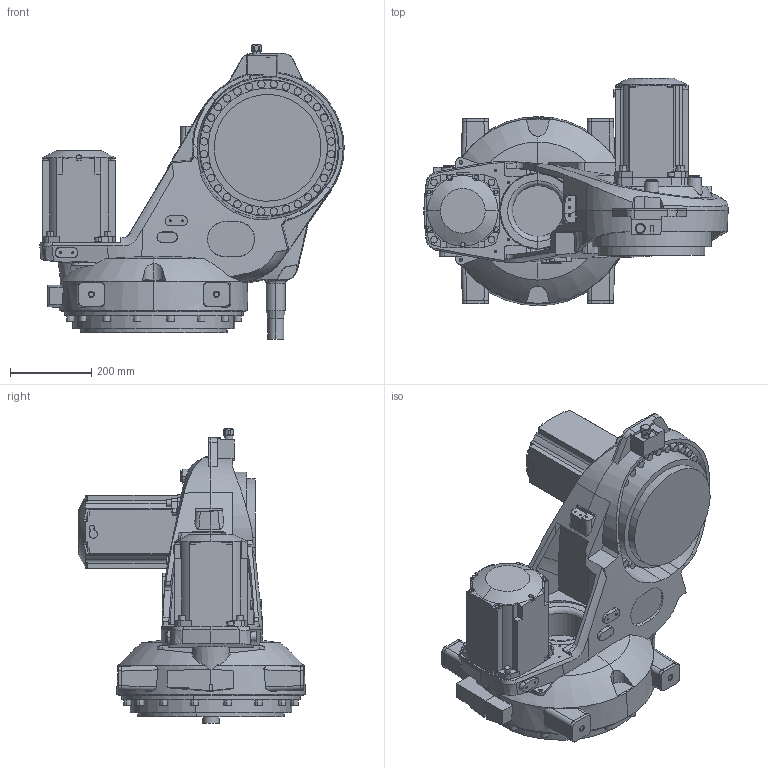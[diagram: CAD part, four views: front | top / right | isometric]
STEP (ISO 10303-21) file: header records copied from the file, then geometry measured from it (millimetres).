
FILE_DESCRIPTION (( 'STEP AP214' ), '1' );
FILE_NAME ('IRB5710-LID_70kg-270_OmniCore_rev00_LINK01_CAD.step', '2025-07-07T14:19:58', ( '' ), ( '' ), 'SwSTEP 2.0', 'SolidWorks 2024', '' );
FILE_SCHEMA (( 'AUTOMOTIVE_DESIGN' ));
Length unit declared in the file: millimetre
Products named in the file (1): IRB5710-LID_70kg-270_OmniCore_rev00_LINK01_CAD
Bounding box: 749.5 x 559.45 x 724.4 mm (x, y, z)
Volume: 67023913.9 mm3; surface area: 2045047.4 mm2
Topology: 5 solids, 25 shells, 1528 faces, 3771 edges, 2393 vertices
Faces by surface type: plane 613, cylinder 470, cone 236, bspline 120, torus 78, sphere 11
Entity records: 60585 total; most frequent: CARTESIAN_POINT 24767, ORIENTED_EDGE 7418, DIRECTION 6913, EDGE_CURVE 3709, AXIS2_PLACEMENT_3D 2644, VERTEX_POINT 2393, EDGE_LOOP 1706, LINE 1625
